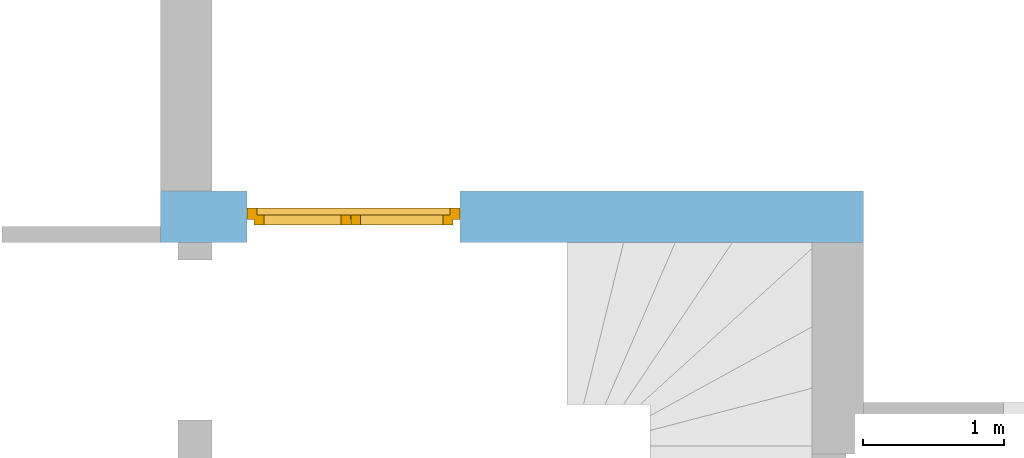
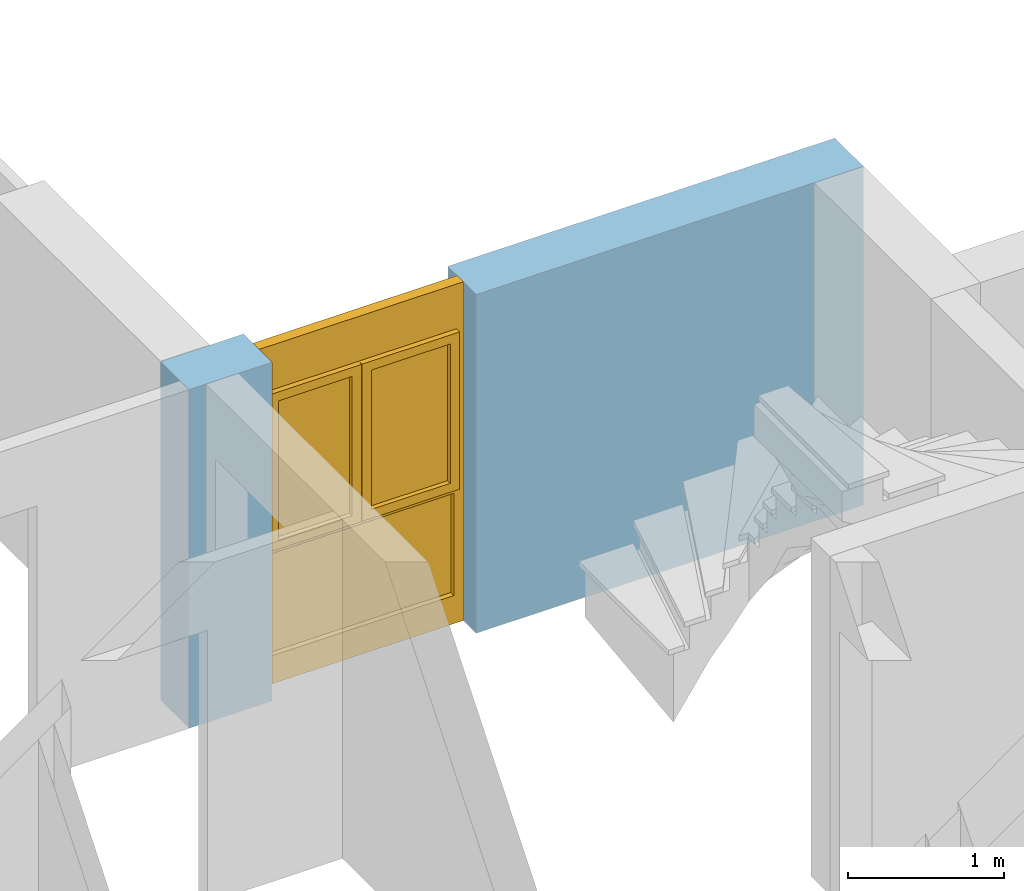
# One storey, part 18 of 42: 1 window, 1 opening, plus 1 element that does not belong to this part.
"""IFC2X3 building model written with IfcOpenShell, lengths in millimetres."""

from ifc_helpers import new_model, entity, si_unit, converted_unit, frame, frame_2d, origin, origin_with_axes, place, context, subcontext, project, spatial, rectangle, extrude, faceted_brep, material, layer, layer_set, layer_usage, type_object, element, fill, save


model = new_model("IFC2X3")

# Units and contexts
model_context = context("Model", 3, precision=1e-05, world=origin())
body_context = subcontext(model_context, "Body", "Model", "MODEL_VIEW")
ifc_project = project(units=[si_unit("LENGTHUNIT", "METRE", prefix="MILLI"), converted_unit("PLANEANGLEUNIT", "DEGREE", entity("IfcPlaneAngleMeasure", 0.0174532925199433), si_unit("PLANEANGLEUNIT", "RADIAN"), dimensions=[0, 0, 0, 0, 0, 0, 0]), si_unit("AREAUNIT", "SQUARE_METRE"), si_unit("VOLUMEUNIT", "CUBIC_METRE")], contexts=[model_context])

# Building, storey
building_placement = place(None, origin())
building = spatial("IfcBuilding", under=ifc_project, at=building_placement, Name="Gebäude", CompositionType="ELEMENT")
storey_placement = place(building_placement, frame((0.0, 0.0, 2730.0), z_axis=(0.0, 0.0, 1.0), x_axis=(1.0, 0.0, 0.0)))
storey = spatial("IfcBuildingStorey", under=building, at=storey_placement, Name="OG.- Grundriss", CompositionType="ELEMENT", Elevation=2730.0)

# Wall, opening, window
ifc_material_1 = material(Name="Poroton")
ifc_layer = layer(ifc_material_1, 365.0000000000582)
ifc_layer_set = layer_set([ifc_layer])
ifc_layer_usage = layer_usage(ifc_layer_set, "AXIS2", "POSITIVE", 0.0)
wall_placement = place(storey_placement, frame((164367.7928067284, 136274.8877324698, 0.0), z_axis=(0.0, 0.0, 1.0), x_axis=(-1.0, 0.0, 0.0)))
wall = element("IfcWallStandardCase", 1, at=wall_placement, inside=storey, material=ifc_layer_usage, Name="<Unnamed Element>", context=body_context, shape_type="SweptSolid", body=[
    extrude(rectangle(XDim=4990.000000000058, YDim=365.0000000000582, at=frame_2d((2495.000000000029, 182.5000000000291), x_axis=(1.0, 0.0))), origin_with_axes(), (0.0, 0.0, 1.0), 2650.0),
])
opening_placement = place(wall_placement, frame((2865.000000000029, 0.0, 0.0), z_axis=(0.0, 1.0, 0.0), x_axis=(0.0, 0.0, 1.0)))
opening = element("IfcOpeningElement", 2, at=opening_placement, cuts=wall, Name="Fensteröffnung", ObjectType="Opening", context=body_context, shape_type="SweptSolid", body=[
    extrude(rectangle(XDim=2650.0, YDim=1510.0, at=frame_2d((1325.0, 755.0), x_axis=(1.0, 0.0))), origin_with_axes(), (0.0, 0.0, 1.0), 365.0000000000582),
])
ifc_material_2 = material()
window_style = type_object("IfcWindowStyle", Name="Fenster", ConstructionType="NOTDEFINED", OperationType="USERDEFINED", ParameterTakesPrecedence=False, Sizeable=False)
window_placement = place(opening_placement, frame((0.0, 0.0, 0.0), z_axis=(1.0, 0.0, 0.0), x_axis=(0.0, 1.0, 0.0)))
window = element("IfcWindow", 3, at=window_placement, inside=storey, type_object=window_style, material=ifc_material_2, Name="Fenster", OverallHeight=2650.0, OverallWidth=1510.0, context=body_context, shape_type="Brep", body=[
    faceted_brep([(9.797174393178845e-15, 200.0000000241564, 2650.0), (9.797174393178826e-15, 200.0000000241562, -2.449293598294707e-15), (70.00000000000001, 200.0000000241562, -2.449293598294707e-15), (70.00000000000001, 200.0000000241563, 2650.0), (0.0, 120.0000000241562, 2.449293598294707e-15), (1.914360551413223e-29, 120.0000000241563, 2650.0), (70.0, 120.0000000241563, 2650.0), (70.0, 120.0000000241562, 2.449293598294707e-15), (9.797174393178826e-15, 200.0000000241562, -2.449293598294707e-15), (9.797174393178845e-15, 200.0000000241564, 2650.0), (1.914360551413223e-29, 120.0000000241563, 2650.0), (0.0, 120.0000000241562, 2.449293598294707e-15), (70.00000000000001, 200.0000000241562, -2.449293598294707e-15), (9.797174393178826e-15, 200.0000000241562, -2.449293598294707e-15), (0.0, 120.0000000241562, 2.449293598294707e-15), (70.0, 120.0000000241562, 2.449293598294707e-15), (70.00000000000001, 200.0000000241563, 2650.0), (70.00000000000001, 200.0000000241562, -2.449293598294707e-15), (70.0, 120.0000000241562, 2.449293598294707e-15), (70.0, 120.0000000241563, 2650.0), (9.797174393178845e-15, 200.0000000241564, 2650.0), (70.00000000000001, 200.0000000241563, 2650.0), (70.0, 120.0000000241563, 2650.0), (1.914360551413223e-29, 120.0000000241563, 2650.0)], [[[0, 1, 2, 3]], [[4, 5, 6, 7]], [[8, 9, 10, 11]], [[12, 13, 14, 15]], [[16, 17, 18, 19]], [[20, 21, 22, 23]]], orient=[[False], [False], [False], [False], [False], [False]]),
    faceted_brep([(1440.0, 200.0000000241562, 2650.0), (1440.0, 200.000000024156, -2.449293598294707e-15), (1510.0, 200.000000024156, -2.449293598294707e-15), (1510.0, 200.0000000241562, 2650.0), (1440.0, 120.000000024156, 2.449293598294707e-15), (1440.0, 120.0000000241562, 2650.0), (1510.0, 120.0000000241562, 2650.0), (1510.0, 120.000000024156, 2.449293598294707e-15), (1440.0, 200.000000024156, -2.449293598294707e-15), (1440.0, 200.0000000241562, 2650.0), (1440.0, 120.0000000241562, 2650.0), (1440.0, 120.000000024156, 2.449293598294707e-15), (1510.0, 200.000000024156, -2.449293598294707e-15), (1440.0, 200.000000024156, -2.449293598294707e-15), (1440.0, 120.000000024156, 2.449293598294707e-15), (1510.0, 120.000000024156, 2.449293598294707e-15), (1510.0, 200.0000000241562, 2650.0), (1510.0, 200.000000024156, -2.449293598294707e-15), (1510.0, 120.000000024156, 2.449293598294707e-15), (1510.0, 120.0000000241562, 2650.0), (1440.0, 200.0000000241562, 2650.0), (1510.0, 200.0000000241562, 2650.0), (1510.0, 120.0000000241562, 2650.0), (1440.0, 120.0000000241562, 2650.0)], [[[0, 1, 2, 3]], [[4, 5, 6, 7]], [[8, 9, 10, 11]], [[12, 13, 14, 15]], [[16, 17, 18, 19]], [[20, 21, 22, 23]]], orient=[[False], [False], [False], [False], [False], [False]]),
    faceted_brep([(70.00000000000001, 200.0000000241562, 220.0), (70.00000000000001, 200.0000000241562, -2.449293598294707e-15), (1440.0, 200.000000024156, -2.449293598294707e-15), (1440.0, 200.000000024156, 220.0), (70.0, 120.0000000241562, 2.449293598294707e-15), (70.0, 120.0000000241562, 220.0), (1440.0, 120.000000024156, 220.0), (1440.0, 120.000000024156, 2.449293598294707e-15), (70.00000000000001, 200.0000000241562, -2.449293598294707e-15), (70.00000000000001, 200.0000000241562, 220.0), (70.0, 120.0000000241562, 220.0), (70.0, 120.0000000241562, 2.449293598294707e-15), (1440.0, 200.000000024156, -2.449293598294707e-15), (70.00000000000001, 200.0000000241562, -2.449293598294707e-15), (70.0, 120.0000000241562, 2.449293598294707e-15), (1440.0, 120.000000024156, 2.449293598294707e-15), (1440.0, 200.000000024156, 220.0), (1440.0, 200.000000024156, -2.449293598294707e-15), (1440.0, 120.000000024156, 2.449293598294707e-15), (1440.0, 120.000000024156, 220.0), (70.00000000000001, 200.0000000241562, 220.0), (1440.0, 200.000000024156, 220.0), (1440.0, 120.000000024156, 220.0), (70.0, 120.0000000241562, 220.0)], [[[0, 1, 2, 3]], [[4, 5, 6, 7]], [[8, 9, 10, 11]], [[12, 13, 14, 15]], [[16, 17, 18, 19]], [[20, 21, 22, 23]]], orient=[[False], [False], [False], [False], [False], [False]]),
    faceted_brep([(70.00000000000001, 200.0000000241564, 2650.0), (70.00000000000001, 200.0000000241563, 2280.0), (1440.0, 200.0000000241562, 2280.0), (1440.0, 200.0000000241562, 2650.0), (70.0, 120.0000000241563, 2280.0), (70.0, 120.0000000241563, 2650.0), (1440.0, 120.0000000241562, 2650.0), (1440.0, 120.0000000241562, 2280.0), (70.00000000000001, 200.0000000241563, 2280.0), (70.00000000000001, 200.0000000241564, 2650.0), (70.0, 120.0000000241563, 2650.0), (70.0, 120.0000000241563, 2280.0), (1440.0, 200.0000000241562, 2280.0), (70.00000000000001, 200.0000000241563, 2280.0), (70.0, 120.0000000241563, 2280.0), (1440.0, 120.0000000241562, 2280.0), (1440.0, 200.0000000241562, 2650.0), (1440.0, 200.0000000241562, 2280.0), (1440.0, 120.0000000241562, 2280.0), (1440.0, 120.0000000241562, 2650.0), (70.00000000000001, 200.0000000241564, 2650.0), (1440.0, 200.0000000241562, 2650.0), (1440.0, 120.0000000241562, 2650.0), (70.0, 120.0000000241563, 2650.0)], [[[0, 1, 2, 3]], [[4, 5, 6, 7]], [[8, 9, 10, 11]], [[12, 13, 14, 15]], [[16, 17, 18, 19]], [[20, 21, 22, 23]]], orient=[[False], [False], [False], [False], [False], [False]]),
    faceted_brep([(70.00000000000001, 200.0000000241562, 1090.0), (70.00000000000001, 200.0000000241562, 1020.0), (1440.0, 200.0000000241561, 1020.0), (1440.0, 200.0000000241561, 1090.0), (70.0, 120.0000000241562, 1020.0), (70.0, 120.0000000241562, 1090.0), (1440.0, 120.0000000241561, 1090.0), (1440.0, 120.0000000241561, 1020.0), (70.00000000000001, 200.0000000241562, 1020.0), (70.00000000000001, 200.0000000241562, 1090.0), (70.0, 120.0000000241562, 1090.0), (70.0, 120.0000000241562, 1020.0), (1440.0, 200.0000000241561, 1020.0), (70.00000000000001, 200.0000000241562, 1020.0), (70.0, 120.0000000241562, 1020.0), (1440.0, 120.0000000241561, 1020.0), (1440.0, 200.0000000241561, 1090.0), (1440.0, 200.0000000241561, 1020.0), (1440.0, 120.0000000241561, 1020.0), (1440.0, 120.0000000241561, 1090.0), (70.00000000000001, 200.0000000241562, 1090.0), (1440.0, 200.0000000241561, 1090.0), (1440.0, 120.0000000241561, 1090.0), (70.0, 120.0000000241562, 1090.0)], [[[0, 1, 2, 3]], [[4, 5, 6, 7]], [[8, 9, 10, 11]], [[12, 13, 14, 15]], [[16, 17, 18, 19]], [[20, 21, 22, 23]]], orient=[[False], [False], [False], [False], [False], [False]]),
    faceted_brep([(70.0, 160.0000000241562, 220.0), (1440.0, 160.000000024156, 220.0), (1440.0, 160.0000000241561, 1020.0), (70.0, 160.0000000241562, 1020.0), (70.0, 159.0000000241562, 220.0), (70.0, 159.0000000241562, 1020.0), (1440.0, 159.0000000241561, 1020.0), (1440.0, 159.000000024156, 220.0), (70.0, 160.0000000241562, 220.0), (70.0, 159.0000000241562, 220.0), (1440.0, 159.000000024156, 220.0), (1440.0, 160.000000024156, 220.0), (1440.0, 160.000000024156, 220.0), (1440.0, 159.000000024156, 220.0), (1440.0, 159.0000000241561, 1020.0), (1440.0, 160.0000000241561, 1020.0), (1440.0, 160.0000000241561, 1020.0), (1440.0, 159.0000000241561, 1020.0), (70.0, 159.0000000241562, 1020.0), (70.0, 160.0000000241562, 1020.0), (70.0, 160.0000000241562, 1020.0), (70.0, 159.0000000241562, 1020.0), (70.0, 159.0000000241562, 220.0), (70.0, 160.0000000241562, 220.0)], [[[0, 1, 2, 3]], [[4, 5, 6, 7]], [[8, 9, 10, 11]], [[12, 13, 14, 15]], [[16, 17, 18, 19]], [[20, 21, 22, 23]]], orient=[[False], [False], [False], [False], [False], [False]]),
    faceted_brep([(50.00000000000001, 240.0000000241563, 2300.0), (50.00000000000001, 240.0000000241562, 1070.0), (120.0, 240.0000000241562, 1070.0), (120.0, 240.0000000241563, 2300.0), (50.00000000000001, 170.0000000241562, 1070.0), (50.00000000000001, 170.0000000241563, 2300.0), (120.0, 170.0000000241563, 2300.0), (120.0, 170.0000000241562, 1070.0), (50.00000000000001, 240.0000000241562, 1070.0), (50.00000000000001, 240.0000000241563, 2300.0), (50.00000000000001, 170.0000000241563, 2300.0), (50.00000000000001, 170.0000000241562, 1070.0), (120.0, 240.0000000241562, 1070.0), (50.00000000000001, 240.0000000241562, 1070.0), (50.00000000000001, 170.0000000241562, 1070.0), (120.0, 170.0000000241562, 1070.0), (120.0, 240.0000000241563, 2300.0), (120.0, 240.0000000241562, 1070.0), (120.0, 170.0000000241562, 1070.0), (120.0, 170.0000000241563, 2300.0), (50.00000000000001, 240.0000000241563, 2300.0), (120.0, 240.0000000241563, 2300.0), (120.0, 170.0000000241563, 2300.0), (50.00000000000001, 170.0000000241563, 2300.0)], [[[0, 1, 2, 3]], [[4, 5, 6, 7]], [[8, 9, 10, 11]], [[12, 13, 14, 15]], [[16, 17, 18, 19]], [[20, 21, 22, 23]]], orient=[[False], [False], [False], [False], [False], [False]]),
    faceted_brep([(704.5000000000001, 240.0000000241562, 2300.0), (704.5000000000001, 240.0000000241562, 1070.0), (774.5000000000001, 240.0000000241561, 1070.0), (774.5000000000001, 240.0000000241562, 2300.0), (704.5000000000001, 170.0000000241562, 1070.0), (704.5000000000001, 170.0000000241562, 2300.0), (774.5000000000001, 170.0000000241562, 2300.0), (774.5000000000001, 170.0000000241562, 1070.0), (704.5000000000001, 240.0000000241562, 1070.0), (704.5000000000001, 240.0000000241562, 2300.0), (704.5000000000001, 170.0000000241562, 2300.0), (704.5000000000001, 170.0000000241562, 1070.0), (774.5000000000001, 240.0000000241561, 1070.0), (704.5000000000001, 240.0000000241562, 1070.0), (704.5000000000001, 170.0000000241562, 1070.0), (774.5000000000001, 170.0000000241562, 1070.0), (774.5000000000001, 240.0000000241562, 2300.0), (774.5000000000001, 240.0000000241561, 1070.0), (774.5000000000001, 170.0000000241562, 1070.0), (774.5000000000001, 170.0000000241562, 2300.0), (704.5000000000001, 240.0000000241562, 2300.0), (774.5000000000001, 240.0000000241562, 2300.0), (774.5000000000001, 170.0000000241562, 2300.0), (704.5000000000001, 170.0000000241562, 2300.0)], [[[0, 1, 2, 3]], [[4, 5, 6, 7]], [[8, 9, 10, 11]], [[12, 13, 14, 15]], [[16, 17, 18, 19]], [[20, 21, 22, 23]]], orient=[[False], [False], [False], [False], [False], [False]]),
    faceted_brep([(120.0, 240.0000000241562, 1140.0), (120.0, 240.0000000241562, 1070.0), (704.5, 240.0000000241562, 1070.0), (704.5, 240.0000000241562, 1140.0), (120.0, 170.0000000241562, 1070.0), (120.0, 170.0000000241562, 1140.0), (704.5, 170.0000000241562, 1140.0), (704.5, 170.0000000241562, 1070.0), (120.0, 240.0000000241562, 1070.0), (120.0, 240.0000000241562, 1140.0), (120.0, 170.0000000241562, 1140.0), (120.0, 170.0000000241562, 1070.0), (704.5, 240.0000000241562, 1070.0), (120.0, 240.0000000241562, 1070.0), (120.0, 170.0000000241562, 1070.0), (704.5, 170.0000000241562, 1070.0), (704.5, 240.0000000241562, 1140.0), (704.5, 240.0000000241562, 1070.0), (704.5, 170.0000000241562, 1070.0), (704.5, 170.0000000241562, 1140.0), (120.0, 240.0000000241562, 1140.0), (704.5, 240.0000000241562, 1140.0), (704.5, 170.0000000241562, 1140.0), (120.0, 170.0000000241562, 1140.0)], [[[0, 1, 2, 3]], [[4, 5, 6, 7]], [[8, 9, 10, 11]], [[12, 13, 14, 15]], [[16, 17, 18, 19]], [[20, 21, 22, 23]]], orient=[[False], [False], [False], [False], [False], [False]]),
    faceted_brep([(120.0, 240.0000000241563, 2300.0), (120.0, 240.0000000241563, 2230.0), (704.5, 240.0000000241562, 2230.0), (704.5, 240.0000000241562, 2300.0), (120.0, 170.0000000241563, 2230.0), (120.0, 170.0000000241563, 2300.0), (704.5, 170.0000000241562, 2300.0), (704.5, 170.0000000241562, 2230.0), (120.0, 240.0000000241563, 2230.0), (120.0, 240.0000000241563, 2300.0), (120.0, 170.0000000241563, 2300.0), (120.0, 170.0000000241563, 2230.0), (704.5, 240.0000000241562, 2230.0), (120.0, 240.0000000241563, 2230.0), (120.0, 170.0000000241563, 2230.0), (704.5, 170.0000000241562, 2230.0), (704.5, 240.0000000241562, 2300.0), (704.5, 240.0000000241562, 2230.0), (704.5, 170.0000000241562, 2230.0), (704.5, 170.0000000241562, 2300.0), (120.0, 240.0000000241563, 2300.0), (704.5, 240.0000000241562, 2300.0), (704.5, 170.0000000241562, 2300.0), (120.0, 170.0000000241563, 2300.0)], [[[0, 1, 2, 3]], [[4, 5, 6, 7]], [[8, 9, 10, 11]], [[12, 13, 14, 15]], [[16, 17, 18, 19]], [[20, 21, 22, 23]]], orient=[[False], [False], [False], [False], [False], [False]]),
    faceted_brep([(775.5000000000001, 240.0000000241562, 2300.0), (775.5000000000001, 240.0000000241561, 1070.0), (845.5000000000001, 240.0000000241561, 1070.0), (845.5000000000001, 240.0000000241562, 2300.0), (775.5000000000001, 170.0000000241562, 1070.0), (775.5000000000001, 170.0000000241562, 2300.0), (845.5000000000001, 170.0000000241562, 2300.0), (845.5000000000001, 170.0000000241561, 1070.0), (775.5000000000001, 240.0000000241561, 1070.0), (775.5000000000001, 240.0000000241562, 2300.0), (775.5000000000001, 170.0000000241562, 2300.0), (775.5000000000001, 170.0000000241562, 1070.0), (845.5000000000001, 240.0000000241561, 1070.0), (775.5000000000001, 240.0000000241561, 1070.0), (775.5000000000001, 170.0000000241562, 1070.0), (845.5000000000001, 170.0000000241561, 1070.0), (845.5000000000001, 240.0000000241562, 2300.0), (845.5000000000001, 240.0000000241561, 1070.0), (845.5000000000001, 170.0000000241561, 1070.0), (845.5000000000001, 170.0000000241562, 2300.0), (775.5000000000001, 240.0000000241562, 2300.0), (845.5000000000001, 240.0000000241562, 2300.0), (845.5000000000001, 170.0000000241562, 2300.0), (775.5000000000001, 170.0000000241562, 2300.0)], [[[0, 1, 2, 3]], [[4, 5, 6, 7]], [[8, 9, 10, 11]], [[12, 13, 14, 15]], [[16, 17, 18, 19]], [[20, 21, 22, 23]]], orient=[[False], [False], [False], [False], [False], [False]]),
    faceted_brep([(1390.0, 240.0000000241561, 2300.0), (1390.0, 240.0000000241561, 1070.0), (1460.0, 240.0000000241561, 1070.0), (1460.0, 240.0000000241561, 2300.0), (1390.0, 170.0000000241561, 1070.0), (1390.0, 170.0000000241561, 2300.0), (1460.0, 170.0000000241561, 2300.0), (1460.0, 170.0000000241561, 1070.0), (1390.0, 240.0000000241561, 1070.0), (1390.0, 240.0000000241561, 2300.0), (1390.0, 170.0000000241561, 2300.0), (1390.0, 170.0000000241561, 1070.0), (1460.0, 240.0000000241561, 1070.0), (1390.0, 240.0000000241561, 1070.0), (1390.0, 170.0000000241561, 1070.0), (1460.0, 170.0000000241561, 1070.0), (1460.0, 240.0000000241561, 2300.0), (1460.0, 240.0000000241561, 1070.0), (1460.0, 170.0000000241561, 1070.0), (1460.0, 170.0000000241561, 2300.0), (1390.0, 240.0000000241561, 2300.0), (1460.0, 240.0000000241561, 2300.0), (1460.0, 170.0000000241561, 2300.0), (1390.0, 170.0000000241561, 2300.0)], [[[0, 1, 2, 3]], [[4, 5, 6, 7]], [[8, 9, 10, 11]], [[12, 13, 14, 15]], [[16, 17, 18, 19]], [[20, 21, 22, 23]]], orient=[[False], [False], [False], [False], [False], [False]]),
    faceted_brep([(845.5000000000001, 240.0000000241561, 1140.0), (845.5000000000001, 240.0000000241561, 1070.0), (1390.0, 240.0000000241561, 1070.0), (1390.0, 240.0000000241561, 1140.0), (845.5000000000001, 170.0000000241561, 1070.0), (845.5000000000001, 170.0000000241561, 1140.0), (1390.0, 170.0000000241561, 1140.0), (1390.0, 170.0000000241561, 1070.0), (845.5000000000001, 240.0000000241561, 1070.0), (845.5000000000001, 240.0000000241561, 1140.0), (845.5000000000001, 170.0000000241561, 1140.0), (845.5000000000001, 170.0000000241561, 1070.0), (1390.0, 240.0000000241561, 1070.0), (845.5000000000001, 240.0000000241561, 1070.0), (845.5000000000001, 170.0000000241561, 1070.0), (1390.0, 170.0000000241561, 1070.0), (1390.0, 240.0000000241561, 1140.0), (1390.0, 240.0000000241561, 1070.0), (1390.0, 170.0000000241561, 1070.0), (1390.0, 170.0000000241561, 1140.0), (845.5000000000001, 240.0000000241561, 1140.0), (1390.0, 240.0000000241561, 1140.0), (1390.0, 170.0000000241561, 1140.0), (845.5000000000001, 170.0000000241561, 1140.0)], [[[0, 1, 2, 3]], [[4, 5, 6, 7]], [[8, 9, 10, 11]], [[12, 13, 14, 15]], [[16, 17, 18, 19]], [[20, 21, 22, 23]]], orient=[[False], [False], [False], [False], [False], [False]]),
    faceted_brep([(845.5000000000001, 240.0000000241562, 2300.0), (845.5000000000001, 240.0000000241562, 2230.0), (1390.0, 240.0000000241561, 2230.0), (1390.0, 240.0000000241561, 2300.0), (845.5000000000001, 170.0000000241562, 2230.0), (845.5000000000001, 170.0000000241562, 2300.0), (1390.0, 170.0000000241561, 2300.0), (1390.0, 170.0000000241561, 2230.0), (845.5000000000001, 240.0000000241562, 2230.0), (845.5000000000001, 240.0000000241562, 2300.0), (845.5000000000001, 170.0000000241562, 2300.0), (845.5000000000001, 170.0000000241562, 2230.0), (1390.0, 240.0000000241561, 2230.0), (845.5000000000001, 240.0000000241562, 2230.0), (845.5000000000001, 170.0000000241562, 2230.0), (1390.0, 170.0000000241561, 2230.0), (1390.0, 240.0000000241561, 2300.0), (1390.0, 240.0000000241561, 2230.0), (1390.0, 170.0000000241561, 2230.0), (1390.0, 170.0000000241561, 2300.0), (845.5000000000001, 240.0000000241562, 2300.0), (1390.0, 240.0000000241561, 2300.0), (1390.0, 170.0000000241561, 2300.0), (845.5000000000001, 170.0000000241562, 2300.0)], [[[0, 1, 2, 3]], [[4, 5, 6, 7]], [[8, 9, 10, 11]], [[12, 13, 14, 15]], [[16, 17, 18, 19]], [[20, 21, 22, 23]]], orient=[[False], [False], [False], [False], [False], [False]]),
    faceted_brep([(120.0, 205.0000000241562, 1140.0), (704.5, 205.0000000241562, 1140.0), (704.5, 205.0000000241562, 2230.0), (120.0, 205.0000000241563, 2230.0), (120.0, 204.0000000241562, 1140.0), (120.0, 204.0000000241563, 2230.0), (704.5, 204.0000000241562, 2230.0), (704.5, 204.0000000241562, 1140.0), (120.0, 205.0000000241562, 1140.0), (120.0, 204.0000000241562, 1140.0), (704.5, 204.0000000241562, 1140.0), (704.5, 205.0000000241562, 1140.0), (704.5, 205.0000000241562, 1140.0), (704.5, 204.0000000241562, 1140.0), (704.5, 204.0000000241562, 2230.0), (704.5, 205.0000000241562, 2230.0), (704.5, 205.0000000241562, 2230.0), (704.5, 204.0000000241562, 2230.0), (120.0, 204.0000000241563, 2230.0), (120.0, 205.0000000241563, 2230.0), (120.0, 205.0000000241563, 2230.0), (120.0, 204.0000000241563, 2230.0), (120.0, 204.0000000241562, 1140.0), (120.0, 205.0000000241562, 1140.0)], [[[0, 1, 2, 3]], [[4, 5, 6, 7]], [[8, 9, 10, 11]], [[12, 13, 14, 15]], [[16, 17, 18, 19]], [[20, 21, 22, 23]]], orient=[[False], [False], [False], [False], [False], [False]]),
    faceted_brep([(845.5000000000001, 205.0000000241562, 1140.0), (1390.0, 205.0000000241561, 1140.0), (1390.0, 205.0000000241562, 2230.0), (845.5000000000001, 205.0000000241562, 2230.0), (845.5000000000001, 204.0000000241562, 1140.0), (845.5000000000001, 204.0000000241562, 2230.0), (1390.0, 204.0000000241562, 2230.0), (1390.0, 204.0000000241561, 1140.0), (845.5000000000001, 205.0000000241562, 1140.0), (845.5000000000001, 204.0000000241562, 1140.0), (1390.0, 204.0000000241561, 1140.0), (1390.0, 205.0000000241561, 1140.0), (1390.0, 205.0000000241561, 1140.0), (1390.0, 204.0000000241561, 1140.0), (1390.0, 204.0000000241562, 2230.0), (1390.0, 205.0000000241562, 2230.0), (1390.0, 205.0000000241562, 2230.0), (1390.0, 204.0000000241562, 2230.0), (845.5000000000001, 204.0000000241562, 2230.0), (845.5000000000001, 205.0000000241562, 2230.0), (845.5000000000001, 205.0000000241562, 2230.0), (845.5000000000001, 204.0000000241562, 2230.0), (845.5000000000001, 204.0000000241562, 1140.0), (845.5000000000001, 205.0000000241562, 1140.0)], [[[0, 1, 2, 3]], [[4, 5, 6, 7]], [[8, 9, 10, 11]], [[12, 13, 14, 15]], [[16, 17, 18, 19]], [[20, 21, 22, 23]]], orient=[[False], [False], [False], [False], [False], [False]]),
])
fill(opening, window)

save(model, "model.ifc")
